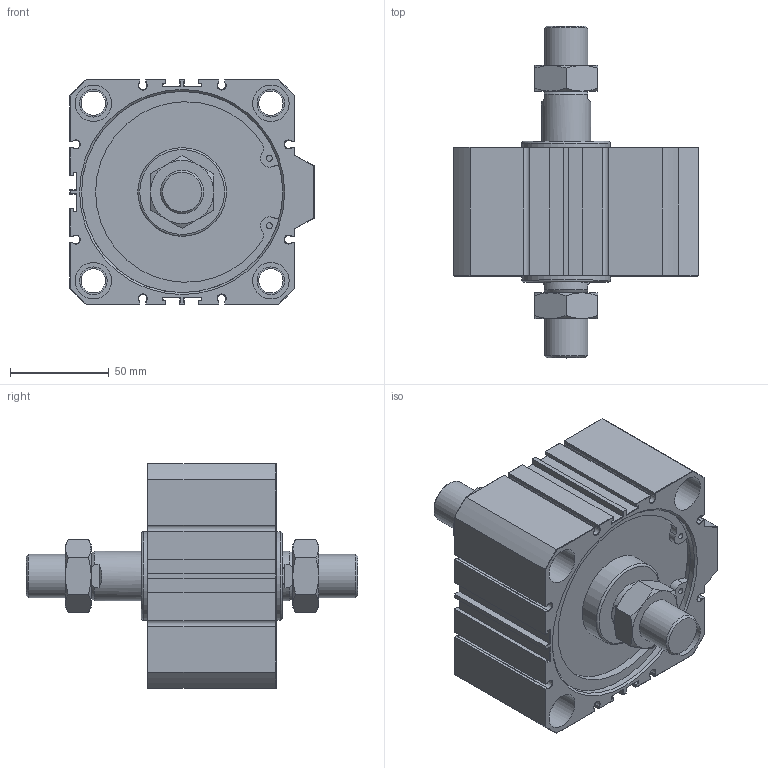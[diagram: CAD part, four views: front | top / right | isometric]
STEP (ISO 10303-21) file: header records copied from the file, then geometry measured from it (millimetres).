
FILE_DESCRIPTION(/* description */ (''),/* implementation_level */ '2;1');
FILE_NAME(/* name */ 'AJC-SW100X20W',/* time_stamp */ '2019-07-02T16:15:22+08:00',/* author */ ('JEFF HUANG'),/* organization */ ('TAIWAN AMAC CLAMP INDUSTRIAL CO., LTD.'),/* preprocessor_version */ 'ST-DEVELOPER v16.7',/* originating_system */ 'DEX',/* authorisation */ $);
FILE_SCHEMA (('AUTOMOTIVE_DESIGN {1 0 10303 214 3 1 1}'));
Length unit declared in the file: millimetre
Products named in the file (1): AJC-SW100X20W
Bounding box: 124 x 168.3 x 114 mm (x, y, z)
Volume: 755215.8 mm3; surface area: 94501.5 mm2
Topology: 1 solids, 1 shells, 433 faces, 971 edges, 540 vertices
Faces by surface type: plane 266, cone 90, cylinder 75, torus 2
Full cylindrical faces by diameter (mm): 3 x4, 12.3 x4, 14 x8, 15.806 x2, 18.5 x8, 22 x2, 25 x1, 45 x2, 102 x2
Entity records: 14297 total; most frequent: CARTESIAN_POINT 2088, DIRECTION 1906, ORIENTED_EDGE 1782, EDGE_CURVE 891, AXIS2_PLACEMENT_3D 653, LINE 600, VECTOR 600, VERTEX_POINT 533
